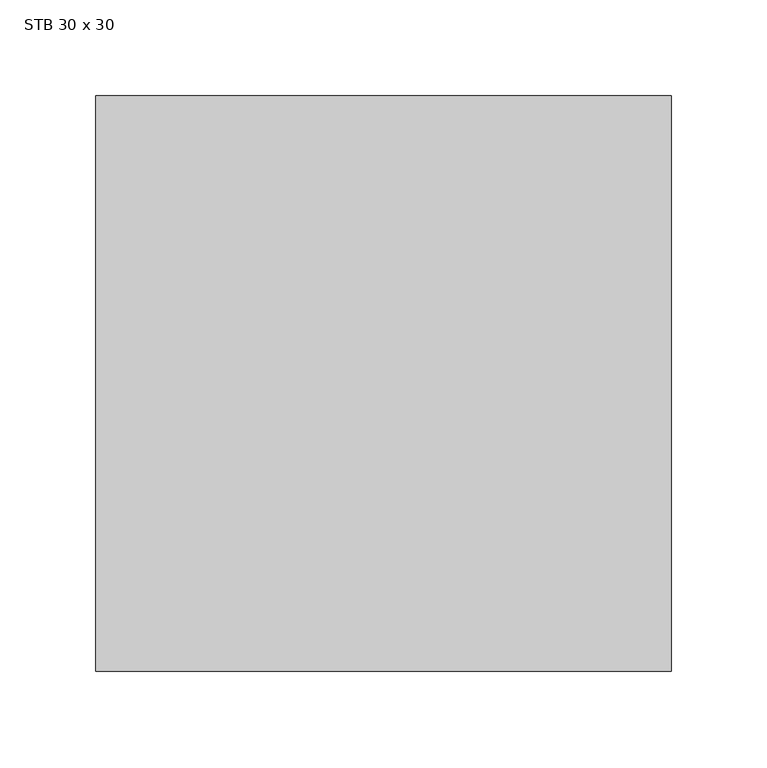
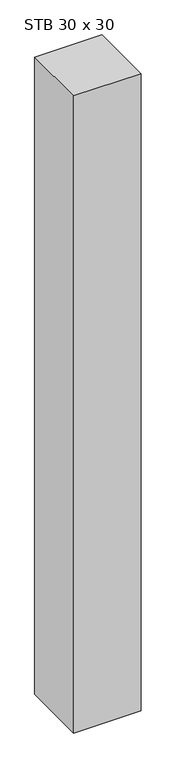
"""IFC4 building model written with IfcOpenShell, lengths in millimetres: column geometry, STB Stütze - rechteckig : STB 30 x 30."""

from ifc_helpers import new_model, si_unit, frame, origin, place, context, project, spatial, polyline, outline, extrude, source, transform, mapped, element, save


def stb_30_x_30_4ab3eca1(model_context):
    return source(origin(), model_context, "Body", "SweptSolid", [
        extrude(outline(polyline([(150.0, 150.0), (150.0, -150.0), (-150.0, -150.0), (-150.0, 150.0), (150.0, 150.0)])), frame((0.0, 0.0, 3000.0), z_axis=(0.0, 0.0, 1.0), x_axis=(1.0, 0.0, 0.0)), (0.0, 0.0, 1.0), 3000.0),
    ])


if __name__ == "__main__":
    model = new_model("IFC4")
    model_context = context("Model", 3, world=origin())
    ifc_project = project(units=[si_unit("LENGTHUNIT", "METRE", prefix="MILLI")], contexts=[model_context])
    site = spatial("IfcSite", under=ifc_project)
    building = spatial("IfcBuilding", under=site)
    placement = place(None, origin())
    stb_30_x_30_shape = stb_30_x_30_4ab3eca1(model_context)
    element("IfcColumn", 1, ObjectType="STB Stütze - rechteckig : STB 30 x 30", at=placement, inside=building, context=model_context, shape_type="MappedRepresentation", body=[
        mapped(stb_30_x_30_shape, transform((0.0, 0.0, 0.0), x_axis=(1.0, 0.0, 0.0), y_axis=(0.0, 1.0, 0.0), z_axis=(0.0, 0.0, 1.0))),
    ])
    save(model, "model.ifc")
